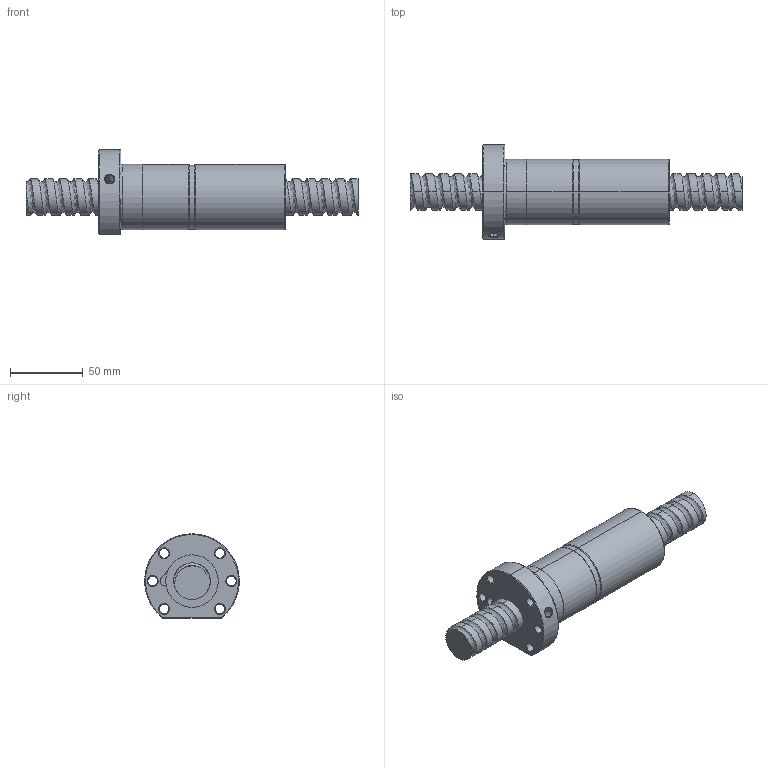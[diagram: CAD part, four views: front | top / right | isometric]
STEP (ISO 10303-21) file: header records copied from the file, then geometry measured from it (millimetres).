
FILE_DESCRIPTION (( 'STEP AP214' ), '1' );
FILE_NAME ('FDDC02510T4-D-B.STEP', '2010-07-07T01:13:20', ( 'XPAUTO' ), ( 'XPAUTO' ), 'SwSTEP 2.0', 'SolidWorks 2007', '' );
FILE_SCHEMA (( 'AUTOMOTIVE_DESIGN' ));
Length unit declared in the file: millimetre
Products named in the file (3): FDDC02510T4-D-B.sldasm-Part-2_預設; FDDC02510T4-D-B.sldasm-Part-1_預設; FDDC02510T4-D-B
Assembly tree (2 placements, depth 2):
  FDDC02510T4-D-B
    FDDC02510T4-D-B.sldasm-Part-2_預設
    FDDC02510T4-D-B.sldasm-Part-1_預設
Bounding box: 228 x 64.8 x 58 mm (x, y, z)
Volume: 258207.4 mm3; surface area: 57509.5 mm2
Topology: 2 solids, 2 shells, 146 faces, 367 edges, 230 vertices
Faces by surface type: cylinder 89, cone 24, plane 19, torus 9, bspline 5
Entity records: 27302 total; most frequent: CARTESIAN_POINT 23844, ORIENTED_EDGE 734, DIRECTION 663, EDGE_CURVE 367, AXIS2_PLACEMENT_3D 269, VERTEX_POINT 230, EDGE_LOOP 167, FACE_OUTER_BOUND 146
